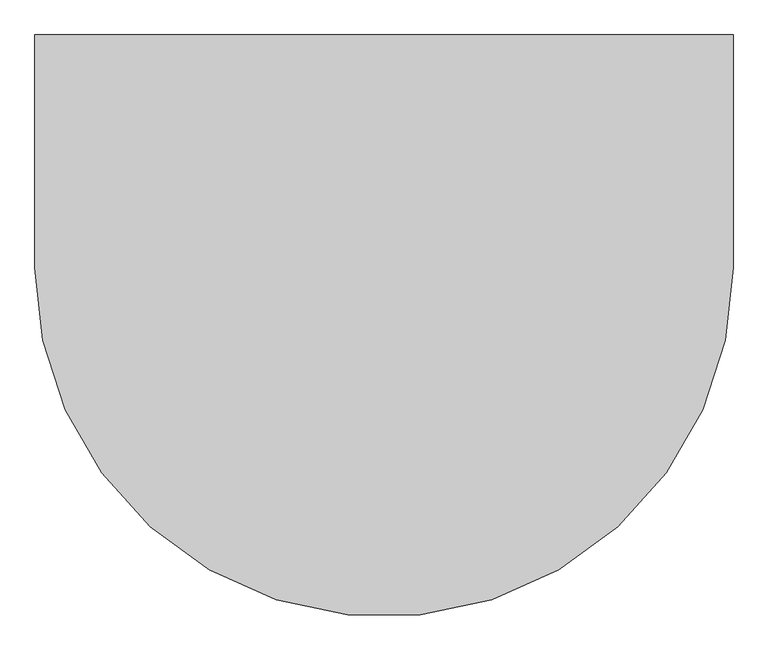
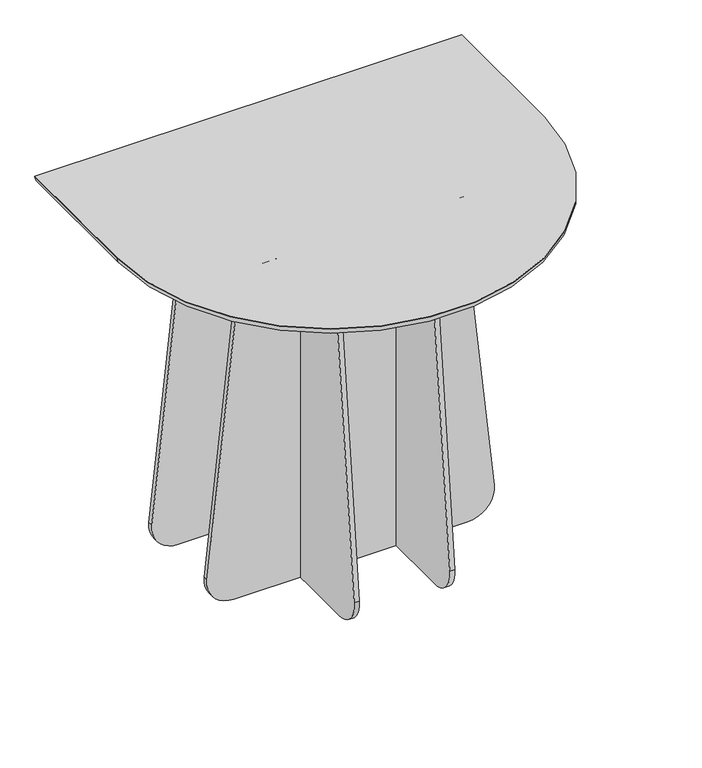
"""IFC4 building model written with IfcOpenShell, lengths in millimetres: furniture geometry, Lundbergs Möbler - Funghi Mèta - Table - Half Moon - 120 - H105 : Lundbergs Möbler - Funghi Mèta - Table - Half Moon - 120 - H105."""

from ifc_helpers import new_model, si_unit, point, frame, frame_2d, origin, place, context, project, spatial, polyline, circle_curve, ellipse_curve, trimmed, segment, composite_curve, outline, extrude, source, transform, mapped, element, save
from ifc_brep_helpers import plane_surface, cylinder_surface, revolved_surface, advanced_brep


def furniture_d688ee71(model_context):
    return source(origin(), model_context, "Body", "SolidModel", [
        advanced_brep(
        [(599.995281, 356.1679038, 1050.0), (599.995281, 356.1679038, 1048.4429462), (577.6933152, 356.1679038, 1026.1409804), (-577.6933152, 356.1679038, 1026.1409804), (-599.995281, 356.1679038, 1048.4429462), (-599.995281, 356.1679038, 1050.0), (-599.995281, -43.6612877, 1050.0), (599.995281, -43.6612877, 1050.0), (599.995281, -43.6612877, 1048.4429462), (577.6933152, -43.6612877, 1026.1409804), (-577.6933152, -43.6612877, 1026.1409804), (-599.995281, -43.6612877, 1048.4429462)],
        [
            (0, 1),
            (1, 2, circle_curve(frame((577.6933152, 356.1679038, 1048.4429462), z_axis=(0.0, 1.0, 0.0), x_axis=(1.0, 0.0, 0.0)), 22.3019658)),
            (2, 3),
            (3, 4, circle_curve(frame((-577.6933152, 356.1679038, 1048.4429462), z_axis=(0.0, 1.0, 0.0), x_axis=(-1.0, 0.0, 0.0)), 22.3019658)),
            (4, 5),
            (5, 0),
            (5, 6),
            (6, 7, circle_curve(frame((0.0, -43.6612877, 1050.0), z_axis=(0.0, 0.0, 1.0), x_axis=(1.0, 0.0, 0.0)), 599.995281)),
            (7, 0),
            (7, 8),
            (8, 1),
            (8, 9, circle_curve(frame((577.6933152, -43.6612877, 1048.4429462), z_axis=(0.0, 1.0, 0.0), x_axis=(1.0, 0.0, 0.0)), 22.3019658)),
            (9, 2),
            (9, 10, circle_curve(frame((0.0, -43.6612877, 1026.1409804), z_axis=(0.0, 0.0, -1.0), x_axis=(1.0, 0.0, 0.0)), 577.6933152)),
            (10, 3),
            (6, 11),
            (11, 8, circle_curve(frame((0.0, -43.6612877, 1048.4429462), z_axis=(0.0, 0.0, 1.0), x_axis=(1.0, 0.0, 0.0)), 599.995281)),
            (11, 10, circle_curve(frame((-577.6933152, -43.6612877, 1048.4429462), z_axis=(0.0, -1.0, 0.0), x_axis=(-1.0, 0.0, 0.0)), 22.3019658)),
            (4, 11),
        ],
        [
            plane_surface(frame((599.995281, 356.1679038, 326.0368389), z_axis=(0.0, 1.0, 0.0), x_axis=(0.0, 0.0, 1.0))),
            plane_surface(frame((412.3534858, 356.1679038, 1050.0), z_axis=(0.0, 0.0, 1.0), x_axis=(0.0, -1.0, 0.0))),
            plane_surface(frame((599.995281, 356.1679038, 1050.0), z_axis=(1.0, 0.0, 0.0), x_axis=(0.0, -1.0, 0.0))),
            cylinder_surface(frame((577.6933152, 356.1679038, 1048.4429462), z_axis=(0.0, 1.0, 0.0), x_axis=(1.0, 0.0, 0.0)), 22.3019658),
            plane_surface(frame((577.6933152, 356.1679038, 1026.1409804), z_axis=(0.0, 0.0, -1.0), x_axis=(0.0, -1.0, 0.0))),
            cylinder_surface(frame((0.0, -43.6612877, 326.0368389), z_axis=(0.0, 0.0, -1.0), x_axis=(1.0, 0.0, 0.0)), 599.995281),
            revolved_surface(trimmed(ellipse_curve(frame((577.6933152, -43.6612877, 1048.4429462), z_axis=(0.0, 1.0, 0.0), x_axis=(1.0, 0.0, 0.0)), 22.3019658, 22.3019658), [point((599.995281, -43.6612877, 1048.4429462))], [point((577.6933152, -43.6612877, 1026.1409804))], True, "CARTESIAN"), (0.0, -43.6612877, 326.0368389), (0.0, 0.0, -1.0)),
            plane_surface(frame((-599.995281, -43.6612877, 1050.0), z_axis=(-1.0, 0.0, 0.0), x_axis=(0.0, 1.0, 0.0))),
            cylinder_surface(frame((-577.6933152, -43.6612877, 1048.4429462), z_axis=(0.0, -1.0, 0.0), x_axis=(-1.0, 0.0, 0.0)), 22.3019658),
        ],
        [
            (0, [[1, 2, 3, 4, 5, 6]]),
            (1, [[-6, 7, 8, 9]]),
            (2, [[-1, -9, 10, 11]]),
            (3, [[-2, -11, 12, 13]]),
            (4, [[-3, -13, 14, 15]]),
            (5, [[-8, 16, 17, -10]]),
            (6, [[-12, -17, 18, -14]]),
            (7, [[-7, -5, 19, -16]]),
            (8, [[-15, -18, -19, -4]]),
        ],
    ),
        extrude(outline(composite_curve([segment(trimmed(circle_curve(frame_2d((-328.9885604, 75.0)), 75.0), [point((-328.9885604, 0.0))], [point((-403.5717494, 82.8960696))], False, "CARTESIAN"), True, "CONTINUOUS"), segment(polyline([(-403.5717494, 82.8960696), (-303.7110763, 1026.1409804), (338.722675, 1026.1409804), (338.722675, 0.0), (-328.9885604, 0.0)]), True, "CONTINUOUS")], self_intersect=False)), frame((127.6465142, 0.0, 0.0), z_axis=(1.0, 0.0, 0.0), x_axis=(0.0, 1.0, 0.0)), (0.0, 0.0, 1.0), 13.4999997),
        extrude(outline(composite_curve([segment(trimmed(circle_curve(frame_2d((-328.9885604, 75.0)), 75.0), [point((-328.9885604, 0.0))], [point((-403.5717494, 82.8960696))], False, "CARTESIAN"), True, "CONTINUOUS"), segment(polyline([(-403.5717494, 82.8960696), (-303.7110763, 1026.1409804), (338.722675, 1026.1409804), (338.722675, 0.0), (-328.9885604, 0.0)]), True, "CONTINUOUS")], self_intersect=False)), frame((-141.1465138, 0.0, 0.0), z_axis=(1.0, 0.0, 0.0), x_axis=(0.0, 1.0, 0.0)), (0.0, 0.0, 1.0), 13.4999997),
        extrude(outline(composite_curve([segment(trimmed(circle_curve(frame_2d((1024.5279988, 196.2845895)), 8.5), [point((1016.0279988, 196.2845895))], [point((1024.5279988, 204.7845895))], False, "CARTESIAN"), True, "CONTINUOUS"), segment(polyline([(1024.5279988, 204.7845895), (1026.1409804, 204.7845895), (1026.1409804, -204.7845895), (1024.5279988, -204.7845895)]), True, "CONTINUOUS"), segment(trimmed(circle_curve(frame_2d((1024.5279988, -196.2845895)), 8.5), [point((1024.5279988, -204.7845895))], [point((1016.0279988, -196.2845895))], False, "CARTESIAN"), True, "CONTINUOUS"), segment(polyline([(1016.0279988, -196.2845895), (1016.0279988, 196.2845895)]), True, "CONTINUOUS")], self_intersect=False)), frame((0.0, 242.5896085, 0.0), z_axis=(0.0, 1.0, 0.0), x_axis=(0.0, 0.0, 1.0)), (0.0, 0.0, 1.0), 40.0000216),
        extrude(outline(composite_curve([segment(trimmed(circle_curve(frame_2d((-196.2845895, 1024.5279988)), 8.5), [point((-196.2845895, 1016.0279988))], [point((-204.7845895, 1024.5279988))], False, "CARTESIAN"), True, "CONTINUOUS"), segment(polyline([(-204.7845895, 1024.5279988), (-204.7845895, 1026.1409804), (204.7845895, 1026.1409804), (204.7845895, 1024.5279988)]), True, "CONTINUOUS"), segment(trimmed(circle_curve(frame_2d((196.2845895, 1024.5279988)), 8.5), [point((204.7845895, 1024.5279988))], [point((196.2845895, 1016.0279988))], False, "CARTESIAN"), True, "CONTINUOUS"), segment(polyline([(196.2845895, 1016.0279988), (-196.2845895, 1016.0279988)]), True, "CONTINUOUS")], self_intersect=False)), frame((242.5896085, 0.0, 0.0), z_axis=(1.0, 0.0, 0.0), x_axis=(0.0, 1.0, 0.0)), (0.0, 0.0, 1.0), 40.0000216),
        extrude(outline(composite_curve([segment(trimmed(circle_curve(frame_2d((-196.2845895, 1024.5279988)), 8.5), [point((-196.2845895, 1016.0279988))], [point((-204.7845895, 1024.5279988))], False, "CARTESIAN"), True, "CONTINUOUS"), segment(polyline([(-204.7845895, 1024.5279988), (-204.7845895, 1026.1409804), (204.7845895, 1026.1409804), (204.7845895, 1024.5279988)]), True, "CONTINUOUS"), segment(trimmed(circle_curve(frame_2d((196.2845895, 1024.5279988)), 8.5), [point((204.7845895, 1024.5279988))], [point((196.2845895, 1016.0279988))], False, "CARTESIAN"), True, "CONTINUOUS"), segment(polyline([(196.2845895, 1016.0279988), (-196.2845895, 1016.0279988)]), True, "CONTINUOUS")], self_intersect=False)), frame((-282.5896301, 0.0, 0.0), z_axis=(1.0, 0.0, 0.0), x_axis=(0.0, 1.0, 0.0)), (0.0, 0.0, 1.0), 40.0000216),
        extrude(outline(composite_curve([segment(trimmed(circle_curve(frame_2d((1024.5279988, 196.2845895)), 8.5), [point((1016.0279988, 196.2845895))], [point((1024.5279988, 204.7845895))], False, "CARTESIAN"), True, "CONTINUOUS"), segment(polyline([(1024.5279988, 204.7845895), (1026.1409804, 204.7845895), (1026.1409804, -204.7845895), (1024.5279988, -204.7845895)]), True, "CONTINUOUS"), segment(trimmed(circle_curve(frame_2d((1024.5279988, -196.2845895)), 8.5), [point((1024.5279988, -204.7845895))], [point((1016.0279988, -196.2845895))], False, "CARTESIAN"), True, "CONTINUOUS"), segment(polyline([(1016.0279988, -196.2845895), (1016.0279988, 196.2845895)]), True, "CONTINUOUS")], self_intersect=False)), frame((0.0, -282.5896301, 0.0), z_axis=(0.0, 1.0, 0.0), x_axis=(0.0, 0.0, 1.0)), (0.0, 0.0, 1.0), 40.0000216),
        extrude(outline(composite_curve([segment(trimmed(circle_curve(frame_2d((75.0, -328.9885604)), 75.0), [point((82.8960696, -403.5717494))], [point((0.0, -328.9885604))], False, "CARTESIAN"), True, "CONTINUOUS"), segment(polyline([(0.0, -328.9885604), (0.0, 328.9885604)]), True, "CONTINUOUS"), segment(trimmed(circle_curve(frame_2d((75.0, 328.9885604)), 75.0), [point((0.0, 328.9885604))], [point((82.8960696, 403.5717494))], False, "CARTESIAN"), True, "CONTINUOUS"), segment(polyline([(82.8960696, 403.5717494), (1026.1409804, 303.7110763), (1026.1409804, -303.7110763), (82.8960696, -403.5717494)]), True, "CONTINUOUS")], self_intersect=False)), frame((0.0, 127.6465142, 0.0), z_axis=(0.0, 1.0, 0.0), x_axis=(0.0, 0.0, 1.0)), (0.0, 0.0, 1.0), 13.4999997),
        extrude(outline(composite_curve([segment(trimmed(circle_curve(frame_2d((75.0, -328.9885604)), 75.0), [point((82.8960696, -403.5717494))], [point((0.0, -328.9885604))], False, "CARTESIAN"), True, "CONTINUOUS"), segment(polyline([(0.0, -328.9885604), (0.0, 328.9885604)]), True, "CONTINUOUS"), segment(trimmed(circle_curve(frame_2d((75.0, 328.9885604)), 75.0), [point((0.0, 328.9885604))], [point((82.8960696, 403.5717494))], False, "CARTESIAN"), True, "CONTINUOUS"), segment(polyline([(82.8960696, 403.5717494), (1026.1409804, 303.7110763), (1026.1409804, -303.7110763), (82.8960696, -403.5717494)]), True, "CONTINUOUS")], self_intersect=False)), frame((0.0, -141.1465138, 0.0), z_axis=(0.0, 1.0, 0.0), x_axis=(0.0, 0.0, 1.0)), (0.0, 0.0, 1.0), 13.4999997),
    ])


if __name__ == "__main__":
    model = new_model("IFC4")
    model_context = context("Model", 3, world=origin())
    ifc_project = project(units=[si_unit("LENGTHUNIT", "METRE", prefix="MILLI")], contexts=[model_context])
    site = spatial("IfcSite", under=ifc_project)
    building = spatial("IfcBuilding", under=site)
    placement = place(None, origin())
    furniture_shape = furniture_d688ee71(model_context)
    element("IfcFurniture", 1, ObjectType="Lundbergs Möbler - Funghi Mèta - Table - Half Moon - 120 - H105 : Lundbergs Möbler - Funghi Mèta - Table - Half Moon - 120 - H105", at=placement, inside=building, context=model_context, shape_type="MappedRepresentation", body=[
        mapped(furniture_shape, transform((0.0, 0.0, 0.0), x_axis=(1.0, 0.0, 0.0), y_axis=(0.0, 1.0, 0.0), z_axis=(0.0, 0.0, 1.0))),
    ])
    save(model, "model.ifc")
